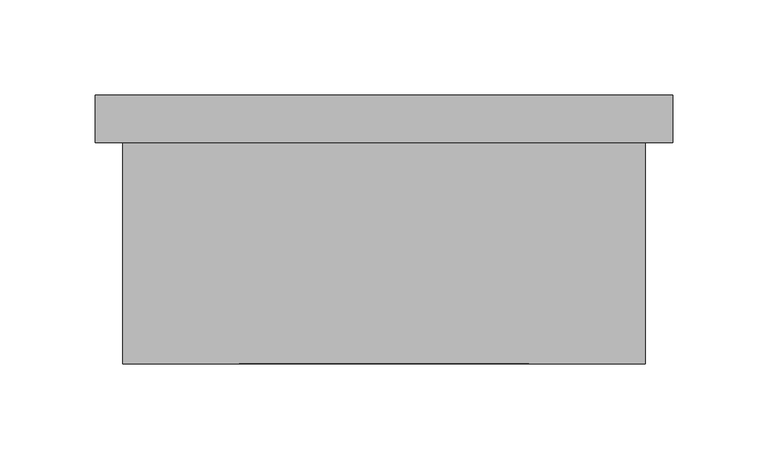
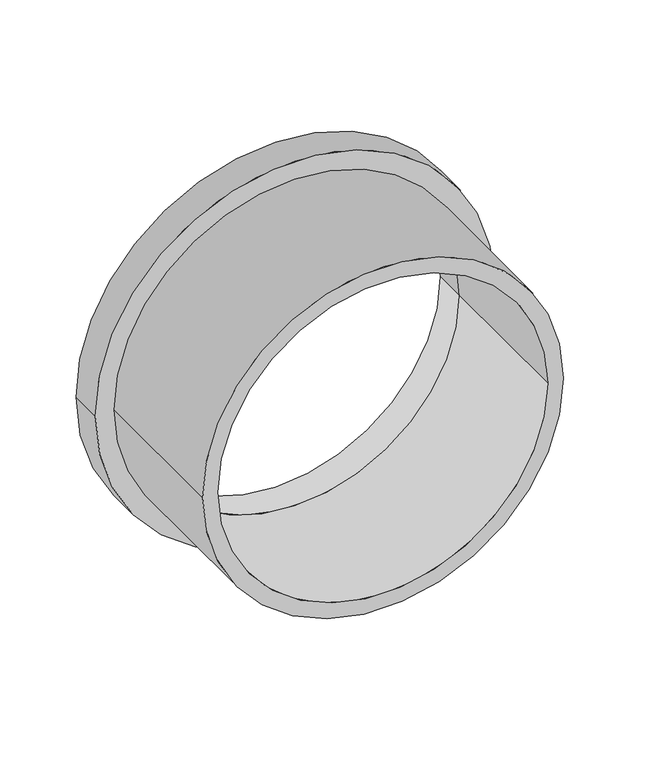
"""IFC4 building model written with IfcOpenShell, lengths in millimetres: pipe fitting geometry, 01051020 : Colarinho."""

from ifc_helpers import new_model, si_unit, point, frame, origin, origin_2d, place, context, project, spatial, circle_curve, trimmed, segment, composite_curve, outline, extrude, source, transform, mapped, element, save


def pipe_fitting_67fe6faa(model_context):
    return source(origin(), model_context, "Body", "SweptSolid", [
        extrude(outline(composite_curve([segment(trimmed(circle_curve(origin_2d(), 137.0), [point((0.0, -137.0))], [point((0.0, 137.0))], False, "CARTESIAN"), True, "CONTINUOUS"), segment(trimmed(circle_curve(origin_2d(), 137.0), [point((0.0, 137.0))], [point((0.0, -137.0))], False, "CARTESIAN"), True, "CONTINUOUS")], self_intersect=False), holes=[composite_curve([segment(trimmed(circle_curve(origin_2d(), 125.0), [point((0.0, -125.0))], [point((0.0, 125.0))], True, "CARTESIAN"), True, "CONTINUOUS"), segment(trimmed(circle_curve(origin_2d(), 125.0), [point((0.0, 125.0))], [point((0.0, -125.0))], True, "CARTESIAN"), True, "CONTINUOUS")], self_intersect=False)]), frame((0.0, -116.0, 0.0), z_axis=(0.0, 1.0, 0.0), x_axis=(0.0, 0.0, 1.0)), (0.0, 0.0, 1.0), 116.0),
        extrude(outline(composite_curve([segment(trimmed(circle_curve(origin_2d(), 151.5), [point((0.0, -151.5))], [point((0.0, 151.5))], False, "CARTESIAN"), True, "CONTINUOUS"), segment(trimmed(circle_curve(origin_2d(), 151.5), [point((0.0, 151.5))], [point((0.0, -151.5))], False, "CARTESIAN"), True, "CONTINUOUS")], self_intersect=False), holes=[composite_curve([segment(trimmed(circle_curve(origin_2d(), 125.0), [point((0.0, -125.0))], [point((0.0, 125.0))], True, "CARTESIAN"), True, "CONTINUOUS"), segment(trimmed(circle_curve(origin_2d(), 125.0), [point((0.0, 125.0))], [point((0.0, -125.0))], True, "CARTESIAN"), True, "CONTINUOUS")], self_intersect=False)]), frame((0.0, 0.0, 0.0), z_axis=(0.0, 1.0, 0.0), x_axis=(0.0, 0.0, 1.0)), (0.0, 0.0, 1.0), 25.0),
    ])


if __name__ == "__main__":
    model = new_model("IFC4")
    model_context = context("Model", 3, world=origin())
    ifc_project = project(units=[si_unit("LENGTHUNIT", "METRE", prefix="MILLI")], contexts=[model_context])
    site = spatial("IfcSite", under=ifc_project)
    building = spatial("IfcBuilding", under=site)
    placement = place(None, origin())
    pipe_fitting_shape = pipe_fitting_67fe6faa(model_context)
    element("IfcPipeFitting", 1, ObjectType="01051020 : Colarinho", at=placement, inside=building, context=model_context, shape_type="MappedRepresentation", body=[
        mapped(pipe_fitting_shape, transform((0.0, 0.0, 0.0), x_axis=(1.0, 0.0, 0.0), y_axis=(0.0, 1.0, 0.0), z_axis=(0.0, 0.0, 1.0))),
    ])
    save(model, "model.ifc")
